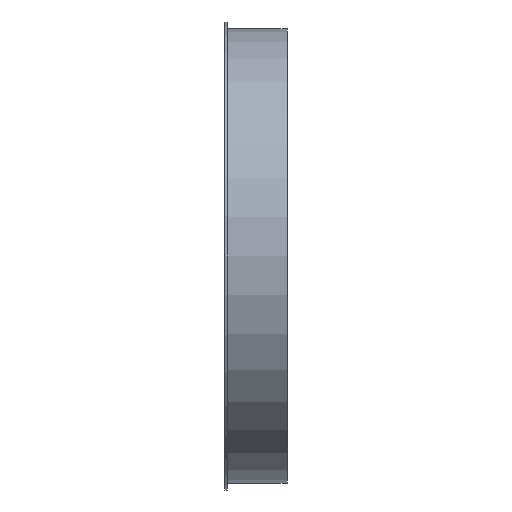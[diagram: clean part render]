
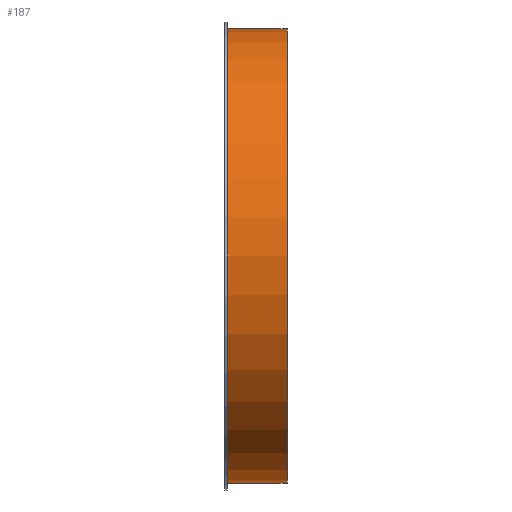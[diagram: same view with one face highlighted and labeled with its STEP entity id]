
A CAD part, front view. The second image highlights one B-rep face of the part: STEP entity #187.
In plain terms, the highlighted cylindrical face has radius 201 mm (diameter 402 mm), a full revolution.
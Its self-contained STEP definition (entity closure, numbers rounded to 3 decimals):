
#112=CARTESIAN_POINT('',(-15.,0.,0.0));
#113=VERTEX_POINT('',#112);
#114=CARTESIAN_POINT('',(-15.,201.0,0.0));
#115=DIRECTION('',(-1.0,0.0,0.0));
#116=DIRECTION('',(0.0,-1.0,0.0));
#117=AXIS2_PLACEMENT_3D('',#114,#115,#116);
#118=CIRCLE('',#117,201.0);
#119=EDGE_CURVE('',#113,#113,#118,.T.);
#161=CARTESIAN_POINT('',(38.0,0.,0.0));
#162=VERTEX_POINT('',#161);
#163=CARTESIAN_POINT('',(38.0,201.0,0.0));
#164=DIRECTION('',(-1.0,0.0,0.0));
#165=DIRECTION('',(0.0,-1.0,0.0));
#166=AXIS2_PLACEMENT_3D('',#163,#164,#165);
#167=CIRCLE('',#166,201.0);
#168=EDGE_CURVE('',#162,#162,#167,.T.);
#176=CARTESIAN_POINT('',(11.5,201.0,0.0));
#177=DIRECTION('',(-1.0,0.0,0.0));
#178=DIRECTION('',(0.0,-1.0,0.0));
#179=AXIS2_PLACEMENT_3D('',#176,#177,#178);
#180=CYLINDRICAL_SURFACE('',#179,201.0);
#181=ORIENTED_EDGE('',*,*,#119,.F.);
#182=EDGE_LOOP('',(#181));
#183=FACE_OUTER_BOUND('',#182,.T.);
#184=ORIENTED_EDGE('',*,*,#168,.T.);
#185=EDGE_LOOP('',(#184));
#186=FACE_BOUND('',#185,.T.);
#187=ADVANCED_FACE('',(#183,#186),#180,.T.);
